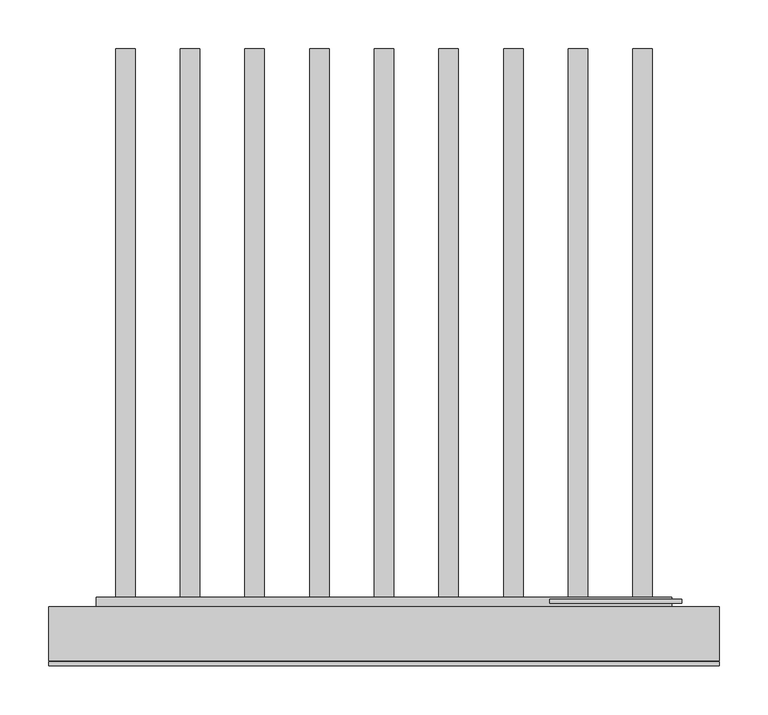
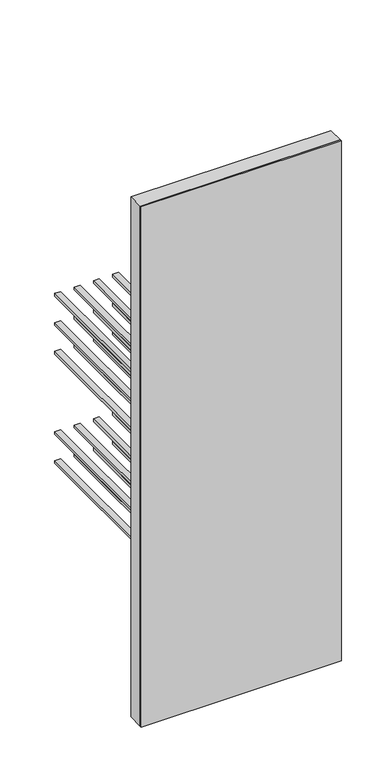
"""IFC4 building model written with IfcOpenShell, lengths in millimetres: proxy geometry, 09472250_AUS_KWT6831SG : 36683100_AUS_9472250_KWT6831SG."""

from ifc_helpers import new_model, si_unit, frame, origin, place, context, project, spatial, polyline, outline, extrude, source, transform, mapped, element, save


def specialty_equipment_9808a1a1(model_context):
    return source(origin(), model_context, "Body", "SweptSolid", [
        extrude(outline(polyline([(10.0, 67.0438353), (-10.0, 67.0438353), (-10.0, 632.0), (10.0, 632.0), (10.0, 67.0438353)])), frame((0.0, 0.0, 1188.0), z_axis=(0.0, 0.0, 1.0), x_axis=(1.0, 0.0, 0.0)), (0.0, 0.0, 1.0), 10.0),
        extrude(outline(polyline([(-56.25, 67.0438353), (-76.25, 67.0438353), (-76.25, 632.0), (-56.25, 632.0), (-56.25, 67.0438353)])), frame((0.0, 0.0, 1188.0), z_axis=(0.0, 0.0, 1.0), x_axis=(1.0, 0.0, 0.0)), (0.0, 0.0, 1.0), 10.0),
        extrude(outline(polyline([(-122.5, 67.0438353), (-142.5, 67.0438353), (-142.5, 632.0), (-122.5, 632.0), (-122.5, 67.0438353)])), frame((0.0, 0.0, 1188.0), z_axis=(0.0, 0.0, 1.0), x_axis=(1.0, 0.0, 0.0)), (0.0, 0.0, 1.0), 10.0),
        extrude(outline(polyline([(-188.75, 67.0438353), (-208.75, 67.0438353), (-208.75, 632.0), (-188.75, 632.0), (-188.75, 67.0438353)])), frame((0.0, 0.0, 1188.0), z_axis=(0.0, 0.0, 1.0), x_axis=(1.0, 0.0, 0.0)), (0.0, 0.0, 1.0), 10.0),
        extrude(outline(polyline([(-255.0, 67.0438353), (-275.0, 67.0438353), (-275.0, 632.0), (-255.0, 632.0), (-255.0, 67.0438353)])), frame((0.0, 0.0, 1188.0), z_axis=(0.0, 0.0, 1.0), x_axis=(1.0, 0.0, 0.0)), (0.0, 0.0, 1.0), 10.0),
        extrude(outline(polyline([(76.25, 67.0438353), (56.25, 67.0438353), (56.25, 632.0), (76.25, 632.0), (76.25, 67.0438353)])), frame((0.0, 0.0, 1188.0), z_axis=(0.0, 0.0, 1.0), x_axis=(1.0, 0.0, 0.0)), (0.0, 0.0, 1.0), 10.0),
        extrude(outline(polyline([(142.5, 67.0438353), (122.5, 67.0438353), (122.5, 632.0), (142.5, 632.0), (142.5, 67.0438353)])), frame((0.0, 0.0, 1188.0), z_axis=(0.0, 0.0, 1.0), x_axis=(1.0, 0.0, 0.0)), (0.0, 0.0, 1.0), 10.0),
        extrude(outline(polyline([(208.75, 67.0438353), (188.75, 67.0438353), (188.75, 632.0), (208.75, 632.0), (208.75, 67.0438353)])), frame((0.0, 0.0, 1188.0), z_axis=(0.0, 0.0, 1.0), x_axis=(1.0, 0.0, 0.0)), (0.0, 0.0, 1.0), 10.0),
        extrude(outline(polyline([(275.0, 67.0438353), (255.0, 67.0438353), (255.0, 632.0), (275.0, 632.0), (275.0, 67.0438353)])), frame((0.0, 0.0, 1188.0), z_axis=(0.0, 0.0, 1.0), x_axis=(1.0, 0.0, 0.0)), (0.0, 0.0, 1.0), 10.0),
        extrude(outline(polyline([(10.0, 67.0438353), (-10.0, 67.0438353), (-10.0, 632.0), (10.0, 632.0), (10.0, 67.0438353)])), frame((0.0, 0.0, 1082.0), z_axis=(0.0, 0.0, 1.0), x_axis=(1.0, 0.0, 0.0)), (0.0, 0.0, 1.0), 10.0),
        extrude(outline(polyline([(-56.25, 67.0438353), (-76.25, 67.0438353), (-76.25, 632.0), (-56.25, 632.0), (-56.25, 67.0438353)])), frame((0.0, 0.0, 1082.0), z_axis=(0.0, 0.0, 1.0), x_axis=(1.0, 0.0, 0.0)), (0.0, 0.0, 1.0), 10.0),
        extrude(outline(polyline([(-122.5, 67.0438353), (-142.5, 67.0438353), (-142.5, 632.0), (-122.5, 632.0), (-122.5, 67.0438353)])), frame((0.0, 0.0, 1082.0), z_axis=(0.0, 0.0, 1.0), x_axis=(1.0, 0.0, 0.0)), (0.0, 0.0, 1.0), 10.0),
        extrude(outline(polyline([(-188.75, 67.0438353), (-208.75, 67.0438353), (-208.75, 632.0), (-188.75, 632.0), (-188.75, 67.0438353)])), frame((0.0, 0.0, 1082.0), z_axis=(0.0, 0.0, 1.0), x_axis=(1.0, 0.0, 0.0)), (0.0, 0.0, 1.0), 10.0),
        extrude(outline(polyline([(-255.0, 67.0438353), (-275.0, 67.0438353), (-275.0, 632.0), (-255.0, 632.0), (-255.0, 67.0438353)])), frame((0.0, 0.0, 1082.0), z_axis=(0.0, 0.0, 1.0), x_axis=(1.0, 0.0, 0.0)), (0.0, 0.0, 1.0), 10.0),
        extrude(outline(polyline([(76.25, 67.0438353), (56.25, 67.0438353), (56.25, 632.0), (76.25, 632.0), (76.25, 67.0438353)])), frame((0.0, 0.0, 1082.0), z_axis=(0.0, 0.0, 1.0), x_axis=(1.0, 0.0, 0.0)), (0.0, 0.0, 1.0), 10.0),
        extrude(outline(polyline([(142.5, 67.0438353), (122.5, 67.0438353), (122.5, 632.0), (142.5, 632.0), (142.5, 67.0438353)])), frame((0.0, 0.0, 1082.0), z_axis=(0.0, 0.0, 1.0), x_axis=(1.0, 0.0, 0.0)), (0.0, 0.0, 1.0), 10.0),
        extrude(outline(polyline([(208.75, 67.0438353), (188.75, 67.0438353), (188.75, 632.0), (208.75, 632.0), (208.75, 67.0438353)])), frame((0.0, 0.0, 1082.0), z_axis=(0.0, 0.0, 1.0), x_axis=(1.0, 0.0, 0.0)), (0.0, 0.0, 1.0), 10.0),
        extrude(outline(polyline([(275.0, 67.0438353), (255.0, 67.0438353), (255.0, 632.0), (275.0, 632.0), (275.0, 67.0438353)])), frame((0.0, 0.0, 1082.0), z_axis=(0.0, 0.0, 1.0), x_axis=(1.0, 0.0, 0.0)), (0.0, 0.0, 1.0), 10.0),
        extrude(outline(polyline([(10.0, 67.0438353), (-10.0, 67.0438353), (-10.0, 632.0), (10.0, 632.0), (10.0, 67.0438353)])), frame((0.0, 0.0, 978.0), z_axis=(0.0, 0.0, 1.0), x_axis=(1.0, 0.0, 0.0)), (0.0, 0.0, 1.0), 10.0),
        extrude(outline(polyline([(-56.25, 67.0438353), (-76.25, 67.0438353), (-76.25, 632.0), (-56.25, 632.0), (-56.25, 67.0438353)])), frame((0.0, 0.0, 978.0), z_axis=(0.0, 0.0, 1.0), x_axis=(1.0, 0.0, 0.0)), (0.0, 0.0, 1.0), 10.0),
        extrude(outline(polyline([(-122.5, 67.0438353), (-142.5, 67.0438353), (-142.5, 632.0), (-122.5, 632.0), (-122.5, 67.0438353)])), frame((0.0, 0.0, 978.0), z_axis=(0.0, 0.0, 1.0), x_axis=(1.0, 0.0, 0.0)), (0.0, 0.0, 1.0), 10.0),
        extrude(outline(polyline([(-188.75, 67.0438353), (-208.75, 67.0438353), (-208.75, 632.0), (-188.75, 632.0), (-188.75, 67.0438353)])), frame((0.0, 0.0, 978.0), z_axis=(0.0, 0.0, 1.0), x_axis=(1.0, 0.0, 0.0)), (0.0, 0.0, 1.0), 10.0),
        extrude(outline(polyline([(-255.0, 67.0438353), (-275.0, 67.0438353), (-275.0, 632.0), (-255.0, 632.0), (-255.0, 67.0438353)])), frame((0.0, 0.0, 978.0), z_axis=(0.0, 0.0, 1.0), x_axis=(1.0, 0.0, 0.0)), (0.0, 0.0, 1.0), 10.0),
        extrude(outline(polyline([(76.25, 67.0438353), (56.25, 67.0438353), (56.25, 632.0), (76.25, 632.0), (76.25, 67.0438353)])), frame((0.0, 0.0, 978.0), z_axis=(0.0, 0.0, 1.0), x_axis=(1.0, 0.0, 0.0)), (0.0, 0.0, 1.0), 10.0),
        extrude(outline(polyline([(142.5, 67.0438353), (122.5, 67.0438353), (122.5, 632.0), (142.5, 632.0), (142.5, 67.0438353)])), frame((0.0, 0.0, 978.0), z_axis=(0.0, 0.0, 1.0), x_axis=(1.0, 0.0, 0.0)), (0.0, 0.0, 1.0), 10.0),
        extrude(outline(polyline([(208.75, 67.0438353), (188.75, 67.0438353), (188.75, 632.0), (208.75, 632.0), (208.75, 67.0438353)])), frame((0.0, 0.0, 978.0), z_axis=(0.0, 0.0, 1.0), x_axis=(1.0, 0.0, 0.0)), (0.0, 0.0, 1.0), 10.0),
        extrude(outline(polyline([(275.0, 67.0438353), (255.0, 67.0438353), (255.0, 632.0), (275.0, 632.0), (275.0, 67.0438353)])), frame((0.0, 0.0, 978.0), z_axis=(0.0, 0.0, 1.0), x_axis=(1.0, 0.0, 0.0)), (0.0, 0.0, 1.0), 10.0),
        extrude(outline(polyline([(10.0, 67.0438353), (-10.0, 67.0438353), (-10.0, 632.0), (10.0, 632.0), (10.0, 67.0438353)])), frame((0.0, 0.0, 687.0), z_axis=(0.0, 0.0, 1.0), x_axis=(1.0, 0.0, 0.0)), (0.0, 0.0, 1.0), 10.0),
        extrude(outline(polyline([(-56.25, 67.0438353), (-76.25, 67.0438353), (-76.25, 632.0), (-56.25, 632.0), (-56.25, 67.0438353)])), frame((0.0, 0.0, 687.0), z_axis=(0.0, 0.0, 1.0), x_axis=(1.0, 0.0, 0.0)), (0.0, 0.0, 1.0), 10.0),
        extrude(outline(polyline([(-122.5, 67.0438353), (-142.5, 67.0438353), (-142.5, 632.0), (-122.5, 632.0), (-122.5, 67.0438353)])), frame((0.0, 0.0, 687.0), z_axis=(0.0, 0.0, 1.0), x_axis=(1.0, 0.0, 0.0)), (0.0, 0.0, 1.0), 10.0),
        extrude(outline(polyline([(-188.75, 67.0438353), (-208.75, 67.0438353), (-208.75, 632.0), (-188.75, 632.0), (-188.75, 67.0438353)])), frame((0.0, 0.0, 687.0), z_axis=(0.0, 0.0, 1.0), x_axis=(1.0, 0.0, 0.0)), (0.0, 0.0, 1.0), 10.0),
        extrude(outline(polyline([(-255.0, 67.0438353), (-275.0, 67.0438353), (-275.0, 632.0), (-255.0, 632.0), (-255.0, 67.0438353)])), frame((0.0, 0.0, 687.0), z_axis=(0.0, 0.0, 1.0), x_axis=(1.0, 0.0, 0.0)), (0.0, 0.0, 1.0), 10.0),
        extrude(outline(polyline([(76.25, 67.0438353), (56.25, 67.0438353), (56.25, 632.0), (76.25, 632.0), (76.25, 67.0438353)])), frame((0.0, 0.0, 687.0), z_axis=(0.0, 0.0, 1.0), x_axis=(1.0, 0.0, 0.0)), (0.0, 0.0, 1.0), 10.0),
        extrude(outline(polyline([(142.5, 67.0438353), (122.5, 67.0438353), (122.5, 632.0), (142.5, 632.0), (142.5, 67.0438353)])), frame((0.0, 0.0, 687.0), z_axis=(0.0, 0.0, 1.0), x_axis=(1.0, 0.0, 0.0)), (0.0, 0.0, 1.0), 10.0),
        extrude(outline(polyline([(208.75, 67.0438353), (188.75, 67.0438353), (188.75, 632.0), (208.75, 632.0), (208.75, 67.0438353)])), frame((0.0, 0.0, 687.0), z_axis=(0.0, 0.0, 1.0), x_axis=(1.0, 0.0, 0.0)), (0.0, 0.0, 1.0), 10.0),
        extrude(outline(polyline([(275.0, 67.0438353), (255.0, 67.0438353), (255.0, 632.0), (275.0, 632.0), (275.0, 67.0438353)])), frame((0.0, 0.0, 687.0), z_axis=(0.0, 0.0, 1.0), x_axis=(1.0, 0.0, 0.0)), (0.0, 0.0, 1.0), 10.0),
        extrude(outline(polyline([(10.0, 67.0438353), (-10.0, 67.0438353), (-10.0, 632.0), (10.0, 632.0), (10.0, 67.0438353)])), frame((0.0, 0.0, 582.0), z_axis=(0.0, 0.0, 1.0), x_axis=(1.0, 0.0, 0.0)), (0.0, 0.0, 1.0), 10.0),
        extrude(outline(polyline([(-56.25, 67.0438353), (-76.25, 67.0438353), (-76.25, 632.0), (-56.25, 632.0), (-56.25, 67.0438353)])), frame((0.0, 0.0, 582.0), z_axis=(0.0, 0.0, 1.0), x_axis=(1.0, 0.0, 0.0)), (0.0, 0.0, 1.0), 10.0),
        extrude(outline(polyline([(-122.5, 67.0438353), (-142.5, 67.0438353), (-142.5, 632.0), (-122.5, 632.0), (-122.5, 67.0438353)])), frame((0.0, 0.0, 582.0), z_axis=(0.0, 0.0, 1.0), x_axis=(1.0, 0.0, 0.0)), (0.0, 0.0, 1.0), 10.0),
        extrude(outline(polyline([(-188.75, 67.0438353), (-208.75, 67.0438353), (-208.75, 632.0), (-188.75, 632.0), (-188.75, 67.0438353)])), frame((0.0, 0.0, 582.0), z_axis=(0.0, 0.0, 1.0), x_axis=(1.0, 0.0, 0.0)), (0.0, 0.0, 1.0), 10.0),
        extrude(outline(polyline([(-255.0, 67.0438353), (-275.0, 67.0438353), (-275.0, 632.0), (-255.0, 632.0), (-255.0, 67.0438353)])), frame((0.0, 0.0, 582.0), z_axis=(0.0, 0.0, 1.0), x_axis=(1.0, 0.0, 0.0)), (0.0, 0.0, 1.0), 10.0),
        extrude(outline(polyline([(76.25, 67.0438353), (56.25, 67.0438353), (56.25, 632.0), (76.25, 632.0), (76.25, 67.0438353)])), frame((0.0, 0.0, 582.0), z_axis=(0.0, 0.0, 1.0), x_axis=(1.0, 0.0, 0.0)), (0.0, 0.0, 1.0), 10.0),
        extrude(outline(polyline([(142.5, 67.0438353), (122.5, 67.0438353), (122.5, 632.0), (142.5, 632.0), (142.5, 67.0438353)])), frame((0.0, 0.0, 582.0), z_axis=(0.0, 0.0, 1.0), x_axis=(1.0, 0.0, 0.0)), (0.0, 0.0, 1.0), 10.0),
        extrude(outline(polyline([(208.75, 67.0438353), (188.75, 67.0438353), (188.75, 632.0), (208.75, 632.0), (208.75, 67.0438353)])), frame((0.0, 0.0, 582.0), z_axis=(0.0, 0.0, 1.0), x_axis=(1.0, 0.0, 0.0)), (0.0, 0.0, 1.0), 10.0),
        extrude(outline(polyline([(275.0, 67.0438353), (255.0, 67.0438353), (255.0, 632.0), (275.0, 632.0), (275.0, 67.0438353)])), frame((0.0, 0.0, 582.0), z_axis=(0.0, 0.0, 1.0), x_axis=(1.0, 0.0, 0.0)), (0.0, 0.0, 1.0), 10.0),
        extrude(outline(polyline([(70.0, 1706.3781397), (70.0, 1680.0), (60.0, 1680.0), (60.0, 1683.0), (60.8925608, 1683.0), (60.8925608, 1702.7661331), (60.0, 1702.7661331), (60.0, 1706.3781397), (70.0, 1706.3781397)])), frame((-295.0, 0.0, 0.0), z_axis=(1.0, 0.0, 0.0), x_axis=(0.0, 1.0, 0.0)), (0.0, 0.0, 1.0), 590.0),
        extrude(outline(polyline([(70.0, 1601.3781397), (70.0, 1575.0), (60.0, 1575.0), (60.0, 1578.0), (60.8925608, 1578.0), (60.8925608, 1597.7661331), (60.0, 1597.7661331), (60.0, 1601.3781397), (70.0, 1601.3781397)])), frame((-295.0, 0.0, 0.0), z_axis=(1.0, 0.0, 0.0), x_axis=(0.0, 1.0, 0.0)), (0.0, 0.0, 1.0), 590.0),
        extrude(outline(polyline([(70.0, 1496.3781397), (70.0, 1470.0), (60.0, 1470.0), (60.0, 1473.0), (60.8925608, 1473.0), (60.8925608, 1492.7661331), (60.0, 1492.7661331), (60.0, 1496.3781397), (70.0, 1496.3781397)])), frame((-295.0, 0.0, 0.0), z_axis=(1.0, 0.0, 0.0), x_axis=(0.0, 1.0, 0.0)), (0.0, 0.0, 1.0), 590.0),
        extrude(outline(polyline([(70.0, 1206.3781397), (70.0, 1180.0), (60.0, 1180.0), (60.0, 1183.0), (60.8925608, 1183.0), (60.8925608, 1202.7661331), (60.0, 1202.7661331), (60.0, 1206.3781397), (70.0, 1206.3781397)])), frame((-295.0, 0.0, 0.0), z_axis=(1.0, 0.0, 0.0), x_axis=(0.0, 1.0, 0.0)), (0.0, 0.0, 1.0), 590.0),
        extrude(outline(polyline([(70.0, 1100.3781397), (70.0, 1074.0), (60.0, 1074.0), (60.0, 1077.0), (60.8925608, 1077.0), (60.8925608, 1096.7661331), (60.0, 1096.7661331), (60.0, 1100.3781397), (70.0, 1100.3781397)])), frame((-295.0, 0.0, 0.0), z_axis=(1.0, 0.0, 0.0), x_axis=(0.0, 1.0, 0.0)), (0.0, 0.0, 1.0), 590.0),
        extrude(outline(polyline([(70.0, 996.3781397), (70.0, 970.0), (60.0, 970.0), (60.0, 973.0), (60.8925608, 973.0), (60.8925608, 992.7661331), (60.0, 992.7661331), (60.0, 996.3781397), (70.0, 996.3781397)])), frame((-295.0, 0.0, 0.0), z_axis=(1.0, 0.0, 0.0), x_axis=(0.0, 1.0, 0.0)), (0.0, 0.0, 1.0), 590.0),
        extrude(outline(polyline([(70.0, 705.3781397), (70.0, 679.0), (60.0, 679.0), (60.0, 682.0), (60.8925608, 682.0), (60.8925608, 701.7661331), (60.0, 701.7661331), (60.0, 705.3781397), (70.0, 705.3781397)])), frame((-295.0, 0.0, 0.0), z_axis=(1.0, 0.0, 0.0), x_axis=(0.0, 1.0, 0.0)), (0.0, 0.0, 1.0), 590.0),
        extrude(outline(polyline([(70.0, 600.3781397), (70.0, 574.0), (60.0, 574.0), (60.0, 577.0), (60.8925608, 577.0), (60.8925608, 596.7661331), (60.0, 596.7661331), (60.0, 600.3781397), (70.0, 600.3781397)])), frame((-295.0, 0.0, 0.0), z_axis=(1.0, 0.0, 0.0), x_axis=(0.0, 1.0, 0.0)), (0.0, 0.0, 1.0), 590.0),
        extrude(outline(polyline([(70.0, 496.3781397), (70.0, 470.0), (60.0, 470.0), (60.0, 473.0), (60.8925608, 473.0), (60.8925608, 492.7661331), (60.0, 492.7661331), (60.0, 496.3781397), (70.0, 496.3781397)])), frame((-295.0, 0.0, 0.0), z_axis=(1.0, 0.0, 0.0), x_axis=(0.0, 1.0, 0.0)), (0.0, 0.0, 1.0), 590.0),
        extrude(outline(polyline([(70.0, 390.3781397), (70.0, 364.0), (60.0, 364.0), (60.0, 367.0), (60.8925608, 367.0), (60.8925608, 386.7661331), (60.0, 386.7661331), (60.0, 390.3781397), (70.0, 390.3781397)])), frame((-295.0, 0.0, 0.0), z_axis=(1.0, 0.0, 0.0), x_axis=(0.0, 1.0, 0.0)), (0.0, 0.0, 1.0), 590.0),
        extrude(outline(polyline([(70.0, 147.3781397), (70.0, 121.0), (60.0, 121.0), (60.0, 124.0), (60.8925608, 124.0), (60.8925608, 143.7661331), (60.0, 143.7661331), (60.0, 147.3781397), (70.0, 147.3781397)])), frame((-295.0, 0.0, 0.0), z_axis=(1.0, 0.0, 0.0), x_axis=(0.0, 1.0, 0.0)), (0.0, 0.0, 1.0), 590.0),
        extrude(outline(polyline([(33.0, 343.5), (1919.0, 343.5), (1919.0, -343.5), (33.0, -343.5), (33.0, 343.5)]), holes=[polyline([(1809.0, 300.0), (116.0, 300.0), (116.0, -300.0), (1809.0, -300.0), (1809.0, 300.0)])]), frame((0.0, 5.0, 0.0), z_axis=(0.0, 1.0, 0.0), x_axis=(0.0, 0.0, 1.0)), (0.0, 0.0, 1.0), 55.0),
        extrude(outline(polyline([(-300.0, 60.0), (300.0, 60.0), (300.0, 5.0), (-300.0, 5.0), (-300.0, 60.0)])), frame((0.0, 0.0, 116.0), z_axis=(0.0, 0.0, 1.0), x_axis=(1.0, 0.0, 0.0)), (0.0, 0.0, 1.0), 1693.0),
        extrude(outline(polyline([(170.0, 68.0), (305.0, 68.0), (305.0, 64.0), (170.0, 64.0), (170.0, 68.0)])), frame((0.0, 0.0, 1846.0), z_axis=(0.0, 0.0, 1.0), x_axis=(1.0, 0.0, 0.0)), (0.0, 0.0, 1.0), 30.0),
        extrude(outline(polyline([(170.0, 68.0), (305.0, 68.0), (305.0, 64.0), (170.0, 64.0), (170.0, 68.0)])), frame((0.0, 0.0, 11.0), z_axis=(0.0, 0.0, 1.0), x_axis=(1.0, 0.0, 0.0)), (0.0, 0.0, 1.0), 30.0),
        extrude(outline(polyline([(343.5, 0.0), (-343.5, 0.0), (-343.5, 4.0), (343.5, 4.0), (343.5, 0.0)])), frame((0.0, 0.0, 33.0), z_axis=(0.0, 0.0, 1.0), x_axis=(1.0, 0.0, 0.0)), (0.0, 0.0, 1.0), 1886.0),
        extrude(outline(polyline([(-326.4353319, 59.0), (326.4353319, 59.0), (326.4353319, 45.0), (-326.4353319, 45.0), (-326.4353319, 59.0)])), frame((0.0, 0.0, 1295.0), z_axis=(0.0, 0.0, 1.0), x_axis=(1.0, 0.0, 0.0)), (0.0, 0.0, 1.0), 12.0),
        extrude(outline(polyline([(-326.4353319, 59.0), (326.4353319, 59.0), (326.4353319, 45.0), (-326.4353319, 45.0), (-326.4353319, 59.0)])), frame((0.0, 0.0, 795.0), z_axis=(0.0, 0.0, 1.0), x_axis=(1.0, 0.0, 0.0)), (0.0, 0.0, 1.0), 12.0),
    ])


if __name__ == "__main__":
    model = new_model("IFC4")
    model_context = context("Model", 3, world=origin())
    ifc_project = project(units=[si_unit("LENGTHUNIT", "METRE", prefix="MILLI")], contexts=[model_context])
    site = spatial("IfcSite", under=ifc_project)
    building = spatial("IfcBuilding", under=site)
    placement = place(None, origin())
    specialty_equipment_shape = specialty_equipment_9808a1a1(model_context)
    element("IfcBuildingElementProxy", 1, Name="09472250_AUS_KWT6831SG : 36683100_AUS_9472250_KWT6831SG", ObjectType="09472250_AUS_KWT6831SG : 36683100_AUS_9472250_KWT6831SG", at=placement, inside=building, context=model_context, shape_type="MappedRepresentation", body=[
        mapped(specialty_equipment_shape, transform((0.0, 0.0, 0.0), x_axis=(1.0, 0.0, 0.0), y_axis=(0.0, 1.0, 0.0), z_axis=(0.0, 0.0, 1.0))),
    ])
    save(model, "model.ifc")
